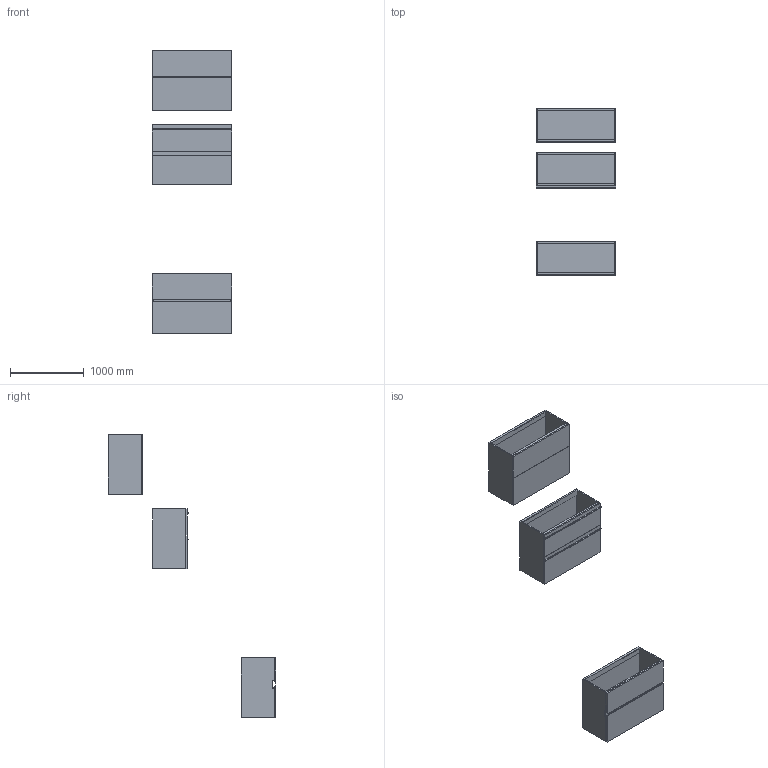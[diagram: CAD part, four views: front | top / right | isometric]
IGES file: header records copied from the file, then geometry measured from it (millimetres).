
Start section: Data from Parasolid IGES Translator 19.0.9, Copyright(c) 2006 Siemens PL M Software. All Rights Reserved.
Global section: file name: noorth-SI-H 81,2 D 47 W 108_8702.igs; native system: By Siemens PLM Incorporated; preprocessor: XPlus GENERIC/IGES 19.0.9; author: Noname; organization: Noname; date: 20200601.140157; units: metre
Bounding box: 1080 x 2270 x 3842 mm (x, y, z)
Volume: 123154379.1 mm3; surface area: 19381137.6 mm2
Topology: 27 solids, 27 shells, 266 faces, 580 edges, 348 vertices
Faces by surface type: plane 182, extrusion 36, bspline 32, cylinder 16
